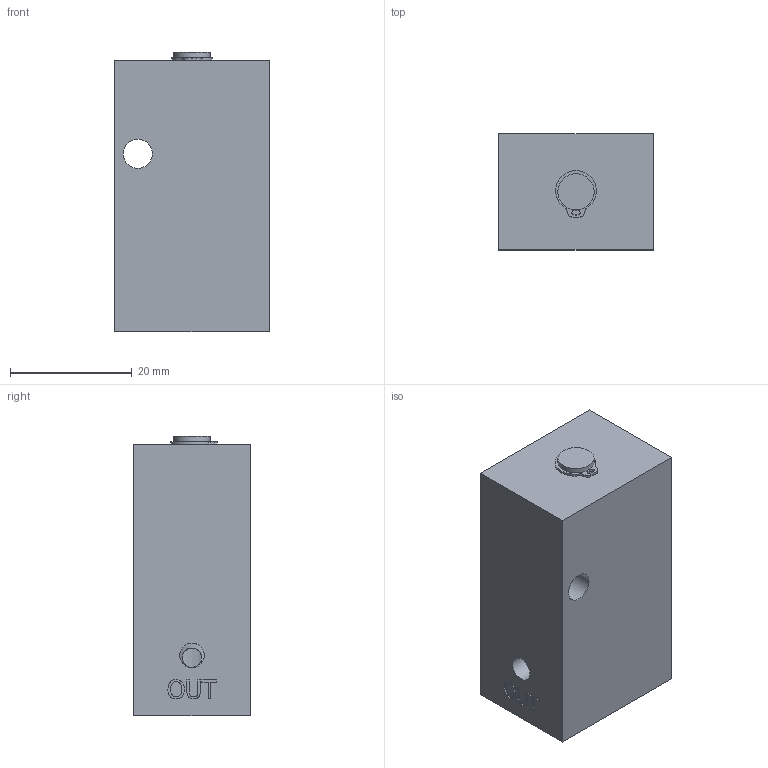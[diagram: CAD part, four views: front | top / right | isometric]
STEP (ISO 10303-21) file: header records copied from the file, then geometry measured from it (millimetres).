
FILE_DESCRIPTION(/* description */ (''),/* implementation_level */ '2;1');
FILE_NAME(/* name */ 'L:\ALADCO\Advertising\3D Content\Valves\Step Files - 2014-11-19 thru Present\42320X.stp',/* time_stamp */ '2014-12-01T11:09:41-06:00',/* author */ ('dmatz'),/* organization */ (''),/* preprocessor_version */ 'ST-DEVELOPER v15.2',/* originating_system */ 'Autodesk Inventor 2014',/* authorisation */ '');
FILE_SCHEMA (('AUTOMOTIVE_DESIGN { 1 0 10303 214 3 1 1 }'));
Length unit declared in the file: inch
Products named in the file (5): 553200UNF; 301185; 301186; 301170; 523201
Bounding box: 25.4 x 19.05 x 45.9 mm (x, y, z)
Volume: 18242.6 mm3; surface area: 7934.3 mm2
Topology: 4 solids, 4 shells, 212 faces, 534 edges, 353 vertices
Faces by surface type: plane 120, bspline 44, cylinder 33, torus 11, cone 4
Full cylindrical faces by diameter (mm): 1.168 x1, 2.946 x1, 3.175 x4, 4.039 x3, 4.762 x2, 5.639 x1, 5.944 x3, 5.994 x1, 6.68 x1, 7.112 x1, 8.56 x2, 9.55 x1, 11.049 x3, 11.1 x1
Entity records: 6890 total; most frequent: CARTESIAN_POINT 2141, ORIENTED_EDGE 956, DIRECTION 800, EDGE_CURVE 478, VERTEX_POINT 340, LINE 310, VECTOR 310, EDGE_LOOP 296
